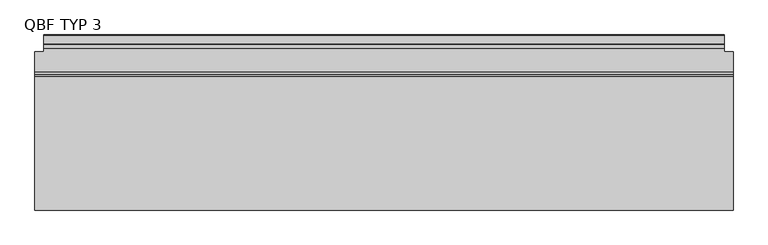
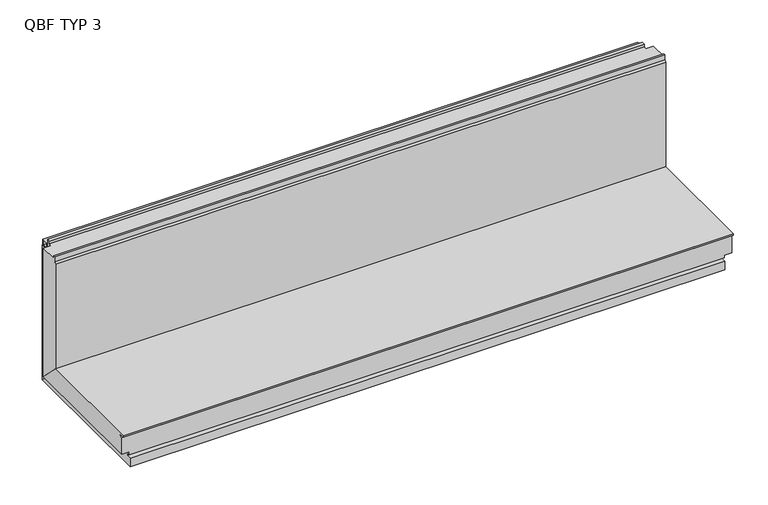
"""IFC4 building model written with IfcOpenShell, lengths in millimetres: plate geometry, TR_C_H_QBISS_Corner_Long_B : QBF TYP 3."""

from ifc_helpers import new_model, si_unit, frame, origin, place, context, project, spatial, polyline, outline, extrude, faceted_brep, source, transform, mapped, element, save


def qbf_typ_3_6f9cfad4(model_context):
    return source(origin(), model_context, "Body", "SolidModel", [
        extrude(outline(polyline([(-27.9998293, 487.7023593), (-24.4998428, 487.7023593), (-24.4998428, 476.0), (-4.4998615, 476.0), (-4.4998615, 493.0), (-24.4998428, 493.0), (-24.4998428, 488.5023593), (-25.9998428, 488.5023593), (-25.9998428, 494.5), (-2.9971631, 494.5), (-2.9971631, 474.5), (-25.9998428, 474.5), (-25.9998428, 481.2976407), (-27.9998293, 481.2976407), (-27.9998293, 480.4976407), (-28.7998428, 480.4976407), (-28.7998428, 488.5023593), (-27.9998293, 488.5023593), (-27.9998293, 487.7023593)])), frame((-987.7999999, 0.0, 0.0), z_axis=(1.0, 0.0, 0.0), x_axis=(0.0, 1.0, 0.0)), (0.0, 0.0, 1.0), 1975.5999998),
        faceted_brep([(1012.8999999, -120.0, 120.0), (1012.8999999, -508.0, 120.0), (1012.8999999, -508.0, 114.0), (1012.8999999, -487.0, 114.0), (1012.8999999, -487.0, 108.0), (1012.8999999, -500.0, 108.0), (1012.8999999, -500.0, 49.0), (1012.8999999, -49.0, 49.0), (-1012.8999999, -500.0, 108.0), (-1012.8999999, -487.0, 108.0), (-1012.8999999, -487.0, 114.0), (-1012.8999999, -508.0, 114.0), (-1012.8999999, -508.0, 120.0), (-1012.8999999, -120.0, 120.0), (-1012.8999999, -49.0, 49.0), (-1012.8999999, -500.0, 49.0), (987.7999999, -49.0, 49.0), (987.7999999, 0.0, 0.0), (-987.7999999, 0.0, 0.0), (-987.7999999, -49.0, 49.0), (-987.7999999, -500.0, 49.0), (-987.7999999, -500.0, 39.0), (987.7999999, -500.0, 39.0), (987.7999999, -500.0, 49.0), (-987.7999999, -487.0, 39.0), (987.7999999, -487.0, 39.0), (-987.7999999, -487.0, 29.0), (987.7999999, -487.0, 29.0), (-987.7999999, -504.0, 29.0), (987.7999999, -504.0, 29.0), (-987.7999999, -504.0, 0.0), (987.7999999, -504.0, 0.0), (987.7999999, -49.0, 0.0), (-987.7999999, -49.0, 0.0)], [[[0, 1, 2, 3, 4, 5, 6, 7]], [[8, 9, 10, 11, 12, 13, 14, 15]], [[13, 0, 7, 16, 17, 18, 19, 14]], [[1, 0, 13, 12]], [[2, 1, 12, 11]], [[3, 2, 11, 10]], [[4, 3, 10, 9]], [[5, 4, 9, 8]], [[5, 8, 15, 20, 21, 22, 23, 6]], [[22, 21, 24, 25]], [[25, 24, 26, 27]], [[27, 26, 28, 29]], [[29, 28, 30, 31]], [[18, 17, 32, 31, 30, 33]], [[20, 19, 18, 33, 30, 28, 26, 24, 21]], [[19, 20, 15, 14]], [[16, 23, 22, 25, 27, 29, 31, 32, 17]], [[23, 16, 7, 6]]]),
        faceted_brep([(1012.8999999, -108.0, 500.0), (1012.8999999, -108.0, 510.0), (1012.8999999, -114.0, 510.0), (1012.8999999, -114.0, 492.0), (1012.8999999, -120.0, 486.0), (1012.8999999, -120.0, 120.0), (1012.8999999, -49.0, 49.0), (1012.8999999, -49.0, 500.0), (-1012.8999999, -120.0, 120.0), (-1012.8999999, -120.0, 486.0), (-1012.8999999, -114.0, 492.0), (-1012.8999999, -114.0, 510.0), (-1012.8999999, -108.0, 510.0), (-1012.8999999, -108.0, 500.0), (-1012.8999999, -49.0, 500.0), (-1012.8999999, -49.0, 49.0), (987.7999999, 0.0, 473.0), (987.7999999, 0.0, 0.0), (-987.7999999, 0.0, 0.0), (-987.7999999, 0.0, 473.0), (987.7999999, -29.0, 473.0), (-987.7999999, -29.0, 473.0), (987.7999999, -29.0, 510.0), (-987.7999999, -29.0, 510.0), (987.7999999, -39.0, 510.0), (-987.7999999, -39.0, 510.0), (987.7999999, -39.0, 500.0), (-987.7999999, -39.0, 500.0), (987.7999999, -49.0, 500.0), (-987.7999999, -49.0, 500.0), (-987.7999999, -49.0, 49.0), (987.7999999, -49.0, 49.0)], [[[0, 1, 2, 3, 4, 5, 6, 7]], [[8, 9, 10, 11, 12, 13, 14, 15]], [[16, 17, 18, 19]], [[20, 16, 19, 21]], [[22, 20, 21, 23]], [[24, 22, 23, 25]], [[26, 24, 25, 27]], [[13, 0, 7, 28, 26, 27, 29, 14]], [[1, 0, 13, 12]], [[2, 1, 12, 11]], [[3, 2, 11, 10]], [[4, 3, 10, 9]], [[5, 4, 9, 8]], [[5, 8, 15, 30, 18, 17, 31, 6]], [[28, 31, 17, 16, 20, 22, 24, 26]], [[31, 28, 7, 6]], [[29, 30, 15, 14]], [[30, 29, 27, 25, 23, 21, 19, 18]]]),
    ])


if __name__ == "__main__":
    model = new_model("IFC4")
    model_context = context("Model", 3, world=origin())
    ifc_project = project(units=[si_unit("LENGTHUNIT", "METRE", prefix="MILLI")], contexts=[model_context])
    site = spatial("IfcSite", under=ifc_project)
    building = spatial("IfcBuilding", under=site)
    placement = place(None, origin())
    qbf_typ_3_shape = qbf_typ_3_6f9cfad4(model_context)
    element("IfcPlate", 1, ObjectType="TR_C_H_QBISS_Corner_Long_B : QBF TYP 3", at=placement, inside=building, context=model_context, shape_type="MappedRepresentation", body=[
        mapped(qbf_typ_3_shape, transform((0.0, 0.0, 0.0), x_axis=(1.0, 0.0, 0.0), y_axis=(0.0, 1.0, 0.0), z_axis=(0.0, 0.0, 1.0))),
    ])
    save(model, "model.ifc")
